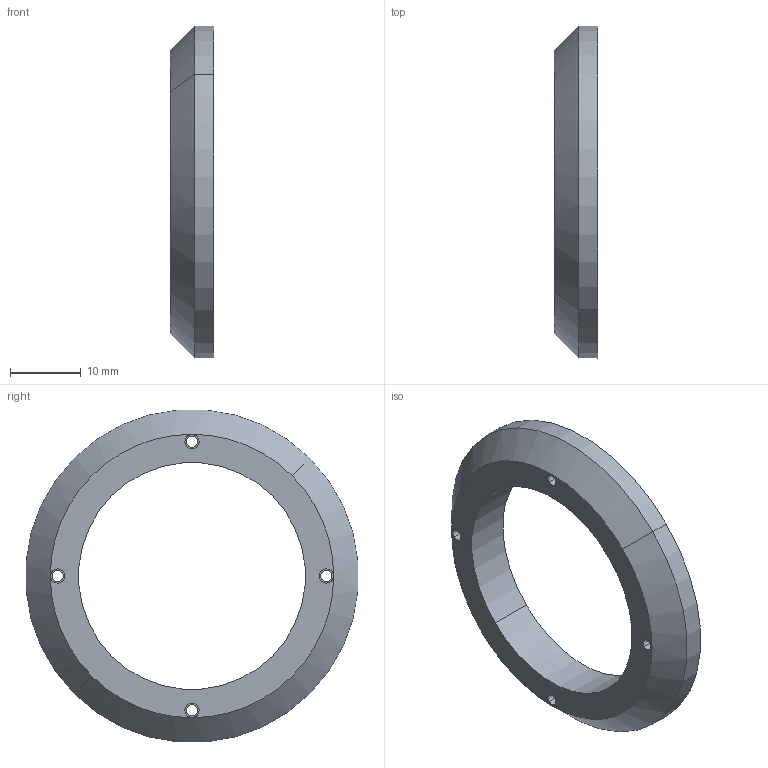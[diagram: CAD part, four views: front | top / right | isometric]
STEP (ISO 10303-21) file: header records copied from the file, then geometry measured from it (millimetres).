
FILE_DESCRIPTION(/* description */ ('(C) Elphel, Inc. 2012. Licensed under CERN OHL v.1.1 or later, see http://ohwr.org/cernohl'),/* implementation_level */ '2;1');
FILE_NAME(/* name */ '0353-11-134',/* time_stamp */ '2012-02-04T23:36:21-07:00',/* author */ (''),/* organization */ ('Elphel, Inc'),/* preprocessor_version */ 'ST-DEVELOPER v12',/* originating_system */ 'VariCAD 2010-3.03; kernel version (20100102)',/* authorisation */ '');
FILE_SCHEMA (('AUTOMOTIVE_DESIGN'));
Length unit declared in the file: millimetre
Products named in the file (1): Part
Bounding box: 6.2 x 46.82 x 46.82 mm (x, y, z)
Volume: 4855.4 mm3; surface area: 3496.1 mm2
Topology: 5 solids, 5 shells, 44 faces, 96 edges, 58 vertices
Faces by surface type: cylinder 28, cone 10, plane 6
Entity records: 1630 total; most frequent: DIRECTION 254, CARTESIAN_POINT 204, ORIENTED_EDGE 192, AXIS2_PLACEMENT_3D 108, EDGE_CURVE 96, EDGE_LOOP 58, CIRCLE 58, VERTEX_POINT 58
